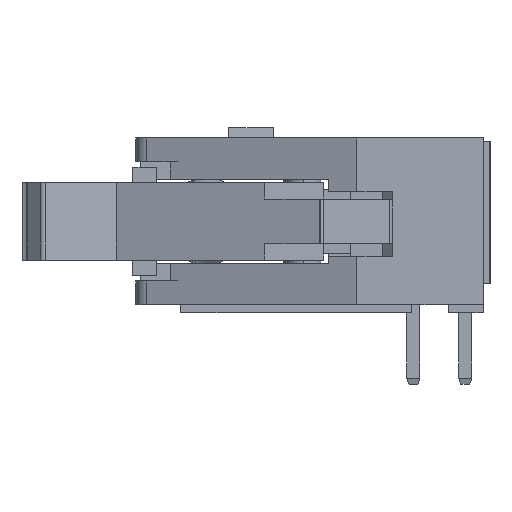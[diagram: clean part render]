
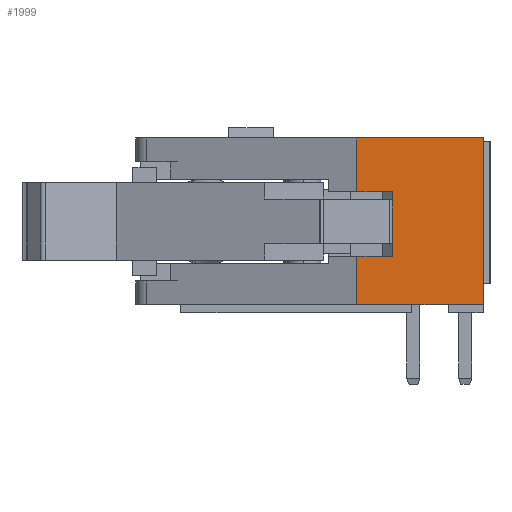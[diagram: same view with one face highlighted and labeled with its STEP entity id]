
A CAD part, left-side view. The second image highlights one B-rep face of the part: STEP entity #1999.
In plain terms, the highlighted planar face has unit normal (-1, 0, 0).
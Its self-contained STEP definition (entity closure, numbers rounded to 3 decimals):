
#838 = VERTEX_POINT ( 'NONE', #12219 ) ;
#876 = VERTEX_POINT ( 'NONE', #12257 ) ;
#885 = VERTEX_POINT ( 'NONE', #12266 ) ;
#888 = VERTEX_POINT ( 'NONE', #12269 ) ;
#929 = VERTEX_POINT ( 'NONE', #12310 ) ;
#952 = VERTEX_POINT ( 'NONE', #12333 ) ;
#980 = VERTEX_POINT ( 'NONE', #12361 ) ;
#987 = VERTEX_POINT ( 'NONE', #12368 ) ;
#1999 = ADVANCED_FACE ( 'NONE', ( #13892 ), #13878, .T. ) ;
#3582 = EDGE_CURVE ( 'NONE', #987, #980, #21495, .T. ) ;
#3634 = EDGE_CURVE ( 'NONE', #929, #838, #22694, .T. ) ;
#3642 = EDGE_CURVE ( 'NONE', #888, #952, #22702, .T. ) ;
#3701 = EDGE_CURVE ( 'NONE', #952, #929, #22890, .T. ) ;
#3702 = EDGE_CURVE ( 'NONE', #838, #876, #22895, .T. ) ;
#3703 = EDGE_CURVE ( 'NONE', #876, #885, #22898, .T. ) ;
#3704 = EDGE_CURVE ( 'NONE', #987, #885, #22901, .T. ) ;
#3705 = EDGE_CURVE ( 'NONE', #980, #888, #22904, .T. ) ;
#4568 = EDGE_LOOP ( 'NONE', ( #4748, #4749, #4750, #4751, #4752, #4753, #4754, #4755 ) ) ;
#4748 = ORIENTED_EDGE ( 'NONE', *, *, #3634, .T. ) ;
#4749 = ORIENTED_EDGE ( 'NONE', *, *, #3702, .T. ) ;
#4750 = ORIENTED_EDGE ( 'NONE', *, *, #3703, .T. ) ;
#4751 = ORIENTED_EDGE ( 'NONE', *, *, #3704, .F. ) ;
#4752 = ORIENTED_EDGE ( 'NONE', *, *, #3582, .T. ) ;
#4753 = ORIENTED_EDGE ( 'NONE', *, *, #3705, .T. ) ;
#4754 = ORIENTED_EDGE ( 'NONE', *, *, #3642, .T. ) ;
#4755 = ORIENTED_EDGE ( 'NONE', *, *, #3701, .T. ) ;
#11804 = AXIS2_PLACEMENT_3D ( 'NONE', #13902, #13903, #13904 ) ;
#12219 = CARTESIAN_POINT ( 'NONE',  ( -26.486, 7.703, -5.816 ) ) ;
#12257 = CARTESIAN_POINT ( 'NONE',  ( -26.486, 7.703, -8.2 ) ) ;
#12266 = CARTESIAN_POINT ( 'NONE',  ( -26.486, 1.503, -8.2 ) ) ;
#12269 = CARTESIAN_POINT ( 'NONE',  ( -26.486, 7.703, -2.65 ) ) ;
#12310 = CARTESIAN_POINT ( 'NONE',  ( -26.486, 5.963, -5.816 ) ) ;
#12333 = CARTESIAN_POINT ( 'NONE',  ( -26.486, 5.963, -2.65 ) ) ;
#12361 = CARTESIAN_POINT ( 'NONE',  ( -26.486, 7.703, 0. ) ) ;
#12368 = CARTESIAN_POINT ( 'NONE',  ( -26.486, 1.503, 0. ) ) ;
#13878 = PLANE ( 'NONE',  #11804 ) ;
#13892 = FACE_OUTER_BOUND ( 'NONE', #4568, .T. ) ;
#13902 = CARTESIAN_POINT ( 'NONE',  ( -26.486, 1.503, -8.2 ) ) ;
#13903 = DIRECTION ( 'NONE',  ( -1., 0., 0. ) ) ;
#13904 = DIRECTION ( 'NONE',  ( 0., 0., 1. ) ) ;
#21495 = LINE ( 'NONE', #21497, #21615 ) ;
#21497 = CARTESIAN_POINT ( 'NONE',  ( -26.486, 1.503, 0. ) ) ;
#21498 = DIRECTION ( 'NONE',  ( 0., 1., 0. ) ) ;
#21615 = VECTOR ( 'NONE', #21498, 1000. ) ;
#21663 = VECTOR ( 'NONE', #22696, 1000. ) ;
#21667 = VECTOR ( 'NONE', #22720, 1000. ) ;
#21729 = VECTOR ( 'NONE', #22894, 1000. ) ;
#21735 = VECTOR ( 'NONE', #22897, 1000. ) ;
#21736 = VECTOR ( 'NONE', #22900, 1000. ) ;
#21737 = VECTOR ( 'NONE', #22903, 1000. ) ;
#21738 = VECTOR ( 'NONE', #22906, 1000. ) ;
#22694 = LINE ( 'NONE', #22695, #21663 ) ;
#22695 = CARTESIAN_POINT ( 'NONE',  ( -26.486, 1.503, -5.816 ) ) ;
#22696 = DIRECTION ( 'NONE',  ( 0., 1., 0. ) ) ;
#22702 = LINE ( 'NONE', #22719, #21667 ) ;
#22719 = CARTESIAN_POINT ( 'NONE',  ( -26.486, 1.503, -2.65 ) ) ;
#22720 = DIRECTION ( 'NONE',  ( 0., -1., 0. ) ) ;
#22879 = CARTESIAN_POINT ( 'NONE',  ( -26.486, 5.963, -8.2 ) ) ;
#22890 = LINE ( 'NONE', #22879, #21729 ) ;
#22894 = DIRECTION ( 'NONE',  ( 0., 0., -1. ) ) ;
#22895 = LINE ( 'NONE', #22896, #21735 ) ;
#22896 = CARTESIAN_POINT ( 'NONE',  ( -26.486, 7.703, -8.2 ) ) ;
#22897 = DIRECTION ( 'NONE',  ( 0., 0., -1. ) ) ;
#22898 = LINE ( 'NONE', #22899, #21736 ) ;
#22899 = CARTESIAN_POINT ( 'NONE',  ( -26.486, 1.503, -8.2 ) ) ;
#22900 = DIRECTION ( 'NONE',  ( 0., -1., 0. ) ) ;
#22901 = LINE ( 'NONE', #22902, #21737 ) ;
#22902 = CARTESIAN_POINT ( 'NONE',  ( -26.486, 1.503, -8.6 ) ) ;
#22903 = DIRECTION ( 'NONE',  ( 0., 0., -1. ) ) ;
#22904 = LINE ( 'NONE', #22905, #21738 ) ;
#22905 = CARTESIAN_POINT ( 'NONE',  ( -26.486, 7.703, -8.2 ) ) ;
#22906 = DIRECTION ( 'NONE',  ( 0., 0., -1. ) ) ;
